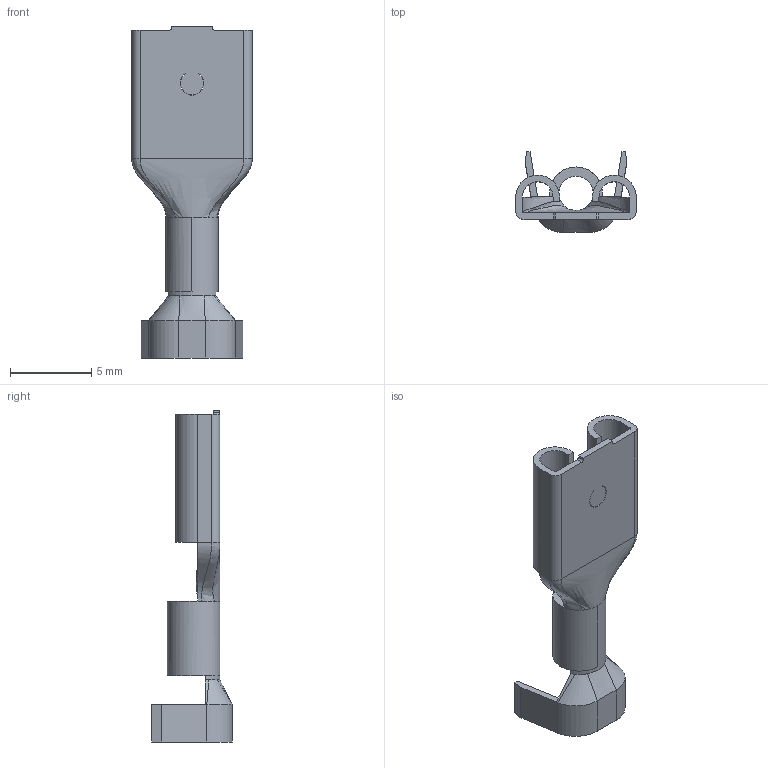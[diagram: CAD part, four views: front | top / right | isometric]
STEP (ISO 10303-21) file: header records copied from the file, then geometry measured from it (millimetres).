
FILE_DESCRIPTION((''),'2;1');
FILE_NAME('190180015','2021-05-06T',('gga'),(''),'PRO/ENGINEER BY PARAMETRIC TECHNOLOGY CORPORATION, 2016010','PRO/ENGINEER BY PARAMETRIC TECHNOLOGY CORPORATION, 2016010','');
FILE_SCHEMA(('CONFIG_CONTROL_DESIGN'));
Length unit declared in the file: inch
Products named in the file (1): 190180015
Bounding box: 7.39 x 4.95 x 20.37 mm (x, y, z)
Volume: 101.6 mm3; surface area: 509.5 mm2
Topology: 1 solids, 1 shells, 80 faces, 213 edges, 134 vertices
Faces by surface type: plane 38, bspline 22, cylinder 20
Entity records: 3438 total; most frequent: CARTESIAN_POINT 1472, ORIENTED_EDGE 424, DIRECTION 359, EDGE_CURVE 212, VECTOR 137, LINE 137, VERTEX_POINT 132, AXIS2_PLACEMENT_3D 111
